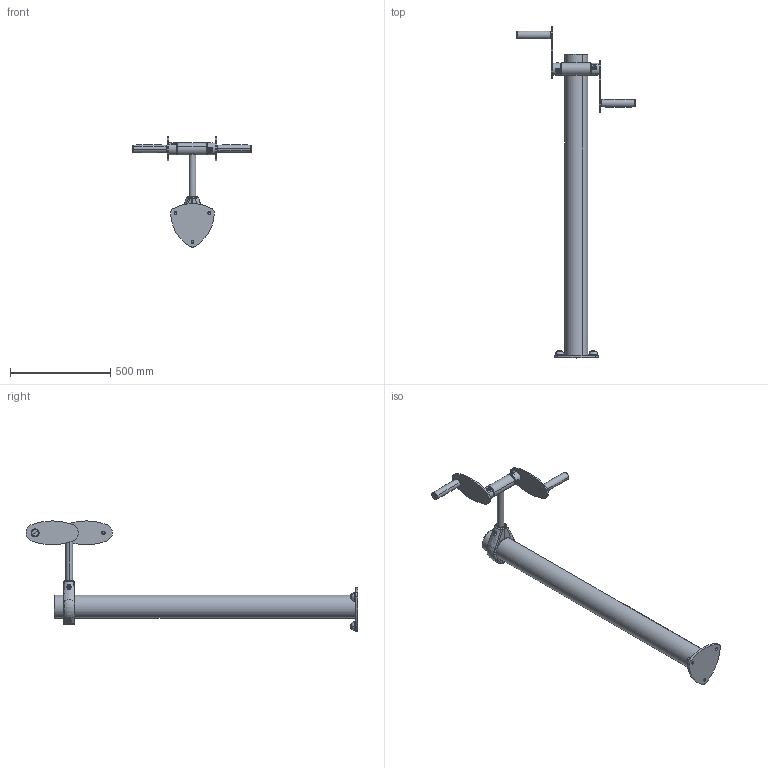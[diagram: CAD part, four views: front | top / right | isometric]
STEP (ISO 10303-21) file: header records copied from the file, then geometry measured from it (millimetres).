
FILE_DESCRIPTION (( 'STEP AP214' ), '1' );
FILE_NAME ('PMS0812 - TOURNIQUET.STEP', '2025-03-27T12:18:39', ( '' ), ( '' ), 'SwSTEP 2.0', 'SolidWorks 2024', '' );
FILE_SCHEMA (( 'AUTOMOTIVE_DESIGN' ));
Length unit declared in the file: millimetre
Products named in the file (1): PMS0812 - TOURNIQUET
Bounding box: 594.2 x 1654.85 x 549.73 mm (x, y, z)
Surface area: 976683.1 mm2 (no closed solid volume)
Topology: 0 solids, 44 shells, 353 faces, 1098 edges, 755 vertices
Faces by surface type: cylinder 110, bspline 95, plane 76, torus 42, cone 20, sphere 10
Entity records: 18087 total; most frequent: CARTESIAN_POINT 9355, DIRECTION 1718, ORIENTED_EDGE 1704, EDGE_CURVE 1090, VERTEX_POINT 755, AXIS2_PLACEMENT_3D 729, CIRCLE 470, EDGE_LOOP 392
